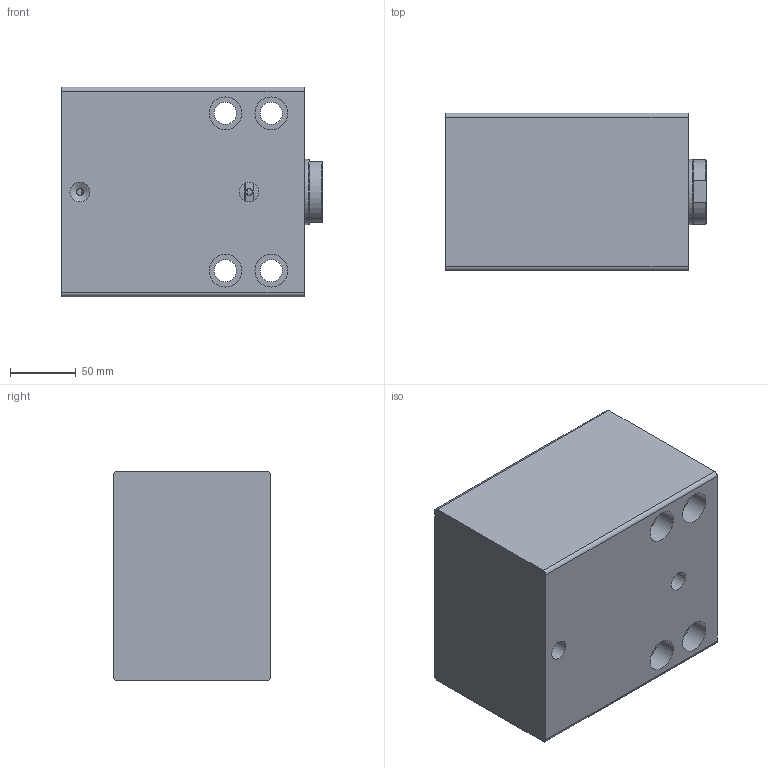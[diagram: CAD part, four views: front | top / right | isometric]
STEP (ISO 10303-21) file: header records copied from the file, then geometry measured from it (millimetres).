
FILE_DESCRIPTION(/* description */ (''),/* implementation_level */ '2;1');
FILE_NAME(/* name */ 'C:/Users/KİNETİC/Downloads/KBZ_08_80_50_100 v9.step',/* time_stamp */ '2022-08-16T18:14:21+03:00',/* author */ (''),/* organization */ (''),/* preprocessor_version */ 'ST-DEVELOPER v19',/* originating_system */ 'Autodesk Translation Framework v11.7.0.108',/* authorisation */ '');
FILE_SCHEMA (('AUTOMOTIVE_DESIGN { 1 0 10303 214 3 1 1 }'));
Length unit declared in the file: millimetre
Products named in the file (9): KBZ_08_80_50_100_MONTAJ2; KBZ_08_80_100_GOVDE; Component1; 50_K_MIL_100; Component1_1; KB_08_80_ORTAPİSTON; Component1_2; KAPAK_80_; Component1_3
Assembly tree (8 placements, depth 3):
  KBZ_08_80_50_100_MONTAJ2
    KBZ_08_80_100_GOVDE
      Component1
    50_K_MIL_100
      Component1_1
    KB_08_80_ORTAPİSTON
      Component1_2
    KAPAK_80_
      Component1_3
Bounding box: 199 x 120 x 160 mm (x, y, z)
Volume: 3090482.5 mm3; surface area: 303439.6 mm2
Topology: 4 solids, 4 shells, 107 faces, 201 edges, 130 vertices
Faces by surface type: cylinder 49, plane 46, cone 12
Full cylindrical faces by diameter (mm): 4.2 x4, 5 x2, 15.172 x2, 17 x4, 17.519 x1, 25 x4, 38.526 x1, 39.85 x1, 50 x6, 53.2 x1, 55 x2, 60 x1, 60.6 x1, 65 x1, 69 x1, 73.2 x1, 75 x1, 79 x3, 80 x1, 80.5 x2, 81 x1, 98.526 x1, 99.85 x1
Entity records: 3027 total; most frequent: DIRECTION 558, CARTESIAN_POINT 509, ORIENTED_EDGE 402, AXIS2_PLACEMENT_3D 239, EDGE_CURVE 201, EDGE_LOOP 151, VERTEX_POINT 130, CIRCLE 115
